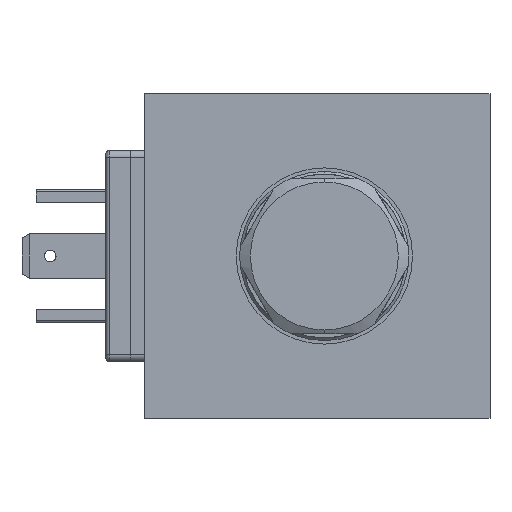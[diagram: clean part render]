
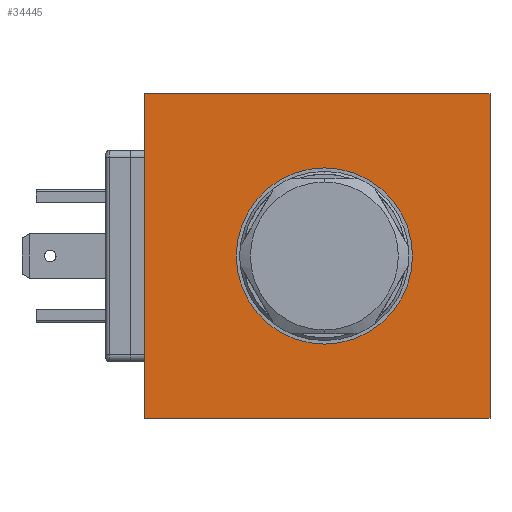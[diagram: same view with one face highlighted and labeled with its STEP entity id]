
A CAD part, left-side view. The second image highlights one B-rep face of the part: STEP entity #34445.
In plain terms, the highlighted planar face has unit normal (-1, 0, 0).
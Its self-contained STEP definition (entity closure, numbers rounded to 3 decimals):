
#424 = VERTEX_POINT ( 'NONE', #8389 ) ;
#445 = CARTESIAN_POINT ( 'NONE',  ( 0., -1., 0. ) ) ;
#2240 = AXIS2_PLACEMENT_3D ( 'NONE', #445, #24020, #3809 ) ;
#2814 = CARTESIAN_POINT ( 'NONE',  ( 0., -1., 0. ) ) ;
#3493 = CARTESIAN_POINT ( 'NONE',  ( 0., -24.5, 23. ) ) ;
#3542 = ORIENTED_EDGE ( 'NONE', *, *, #17016, .F. ) ;
#3809 = DIRECTION ( 'NONE',  ( 0., -1., 0. ) ) ;
#4177 = CARTESIAN_POINT ( 'NONE',  ( 0., -24.5, 23. ) ) ;
#4419 = DIRECTION ( 'NONE',  ( -1., 0., 0. ) ) ;
#4610 = ORIENTED_EDGE ( 'NONE', *, *, #11732, .F. ) ;
#6200 = DIRECTION ( 'NONE',  ( 0., -1., 0. ) ) ;
#6701 = ORIENTED_EDGE ( 'NONE', *, *, #23084, .F. ) ;
#6903 = VERTEX_POINT ( 'NONE', #17014 ) ;
#7013 = CARTESIAN_POINT ( 'NONE',  ( 0., 24.5, -23. ) ) ;
#7350 = FACE_OUTER_BOUND ( 'NONE', #41026, .T. ) ;
#8389 = CARTESIAN_POINT ( 'NONE',  ( 0., 24.5, 23. ) ) ;
#9067 = CARTESIAN_POINT ( 'NONE',  ( 0., 24.5, 23. ) ) ;
#9349 = CARTESIAN_POINT ( 'NONE',  ( 0., -24.5, 23. ) ) ;
#9480 = EDGE_CURVE ( 'NONE', #6903, #26589, #14860, .T. ) ;
#10797 = CIRCLE ( 'NONE', #2240, 12.5 ) ;
#11732 = EDGE_CURVE ( 'NONE', #17332, #424, #32458, .T. ) ;
#12463 = ORIENTED_EDGE ( 'NONE', *, *, #9480, .F. ) ;
#13985 = EDGE_CURVE ( 'NONE', #424, #24907, #38928, .T. ) ;
#14417 = VECTOR ( 'NONE', #36077, 1000. ) ;
#14860 = CIRCLE ( 'NONE', #27877, 12.5 ) ;
#17014 = CARTESIAN_POINT ( 'NONE',  ( 0., -13.5, 0. ) ) ;
#17016 = EDGE_CURVE ( 'NONE', #26589, #6903, #10797, .T. ) ;
#17332 = VERTEX_POINT ( 'NONE', #7013 ) ;
#19445 = VECTOR ( 'NONE', #29029, 1000. ) ;
#20812 = EDGE_CURVE ( 'NONE', #24907, #38578, #34675, .T. ) ;
#22551 = ORIENTED_EDGE ( 'NONE', *, *, #13985, .F. ) ;
#22592 = CARTESIAN_POINT ( 'NONE',  ( 0., 11.5, 0. ) ) ;
#23084 = EDGE_CURVE ( 'NONE', #38578, #17332, #28447, .T. ) ;
#24020 = DIRECTION ( 'NONE',  ( -1., 0., 0. ) ) ;
#24602 = CARTESIAN_POINT ( 'NONE',  ( 0., 0., 0. ) ) ;
#24907 = VERTEX_POINT ( 'NONE', #3493 ) ;
#25101 = EDGE_LOOP ( 'NONE', ( #12463, #3542 ) ) ;
#25603 = CARTESIAN_POINT ( 'NONE',  ( 0., -24.5, -23. ) ) ;
#25656 = VECTOR ( 'NONE', #27778, 1000. ) ;
#26358 = DIRECTION ( 'NONE',  ( -1., 0., 0. ) ) ;
#26589 = VERTEX_POINT ( 'NONE', #22592 ) ;
#27590 = AXIS2_PLACEMENT_3D ( 'NONE', #24602, #4419, #28016 ) ;
#27778 = DIRECTION ( 'NONE',  ( 0., 0., -1. ) ) ;
#27874 = PLANE ( 'NONE',  #27590 ) ;
#27877 = AXIS2_PLACEMENT_3D ( 'NONE', #2814, #26358, #6200 ) ;
#28016 = DIRECTION ( 'NONE',  ( 0., 0., 1. ) ) ;
#28447 = LINE ( 'NONE', #25603, #19445 ) ;
#29029 = DIRECTION ( 'NONE',  ( 0., 1., 0. ) ) ;
#30017 = VECTOR ( 'NONE', #33160, 1000. ) ;
#31534 = ORIENTED_EDGE ( 'NONE', *, *, #20812, .F. ) ;
#32458 = LINE ( 'NONE', #9067, #14417 ) ;
#33160 = DIRECTION ( 'NONE',  ( 0., -1., 0. ) ) ;
#34445 = ADVANCED_FACE ( 'NONE', ( #7350, #42076 ), #27874, .T. ) ;
#34675 = LINE ( 'NONE', #4177, #25656 ) ;
#36077 = DIRECTION ( 'NONE',  ( 0., 0., 1. ) ) ;
#38578 = VERTEX_POINT ( 'NONE', #38663 ) ;
#38663 = CARTESIAN_POINT ( 'NONE',  ( 0., -24.5, -23. ) ) ;
#38928 = LINE ( 'NONE', #9349, #30017 ) ;
#41026 = EDGE_LOOP ( 'NONE', ( #6701, #31534, #22551, #4610 ) ) ;
#42076 = FACE_BOUND ( 'NONE', #25101, .T. ) ;
